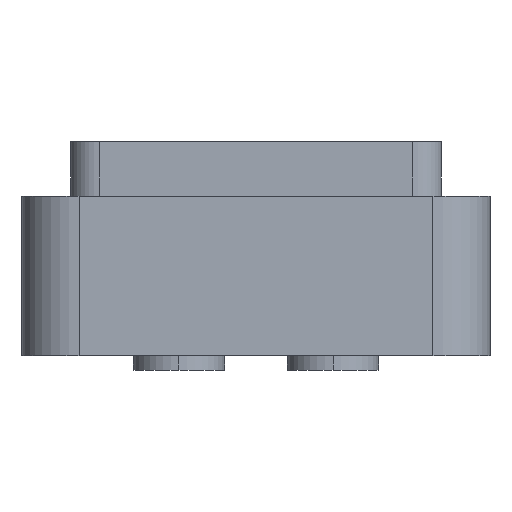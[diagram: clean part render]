
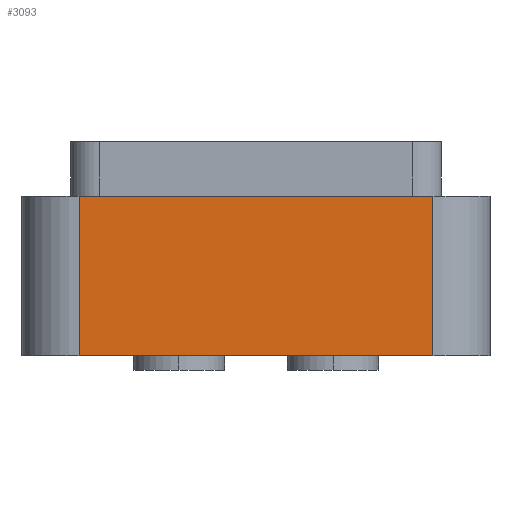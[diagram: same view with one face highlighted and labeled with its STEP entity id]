
A CAD part, left-side view. The second image highlights one B-rep face of the part: STEP entity #3093.
In plain terms, the highlighted planar face has unit normal (-1, 0, 0).
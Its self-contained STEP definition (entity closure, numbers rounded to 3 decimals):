
#228=DIRECTION('',(0.,-1.,0.));
#229=VECTOR('',#228,6.2);
#230=CARTESIAN_POINT('',(-12.2,3.1,0.));
#231=LINE('',#230,#229);
#340=DIRECTION('',(0.,-1.,0.));
#341=VECTOR('',#340,6.2);
#342=CARTESIAN_POINT('',(-12.2,3.1,-2.8));
#343=LINE('',#342,#341);
#1137=DIRECTION('',(0.,0.,-1.));
#1138=VECTOR('',#1137,2.8);
#1139=CARTESIAN_POINT('',(-12.2,3.1,0.));
#1140=LINE('',#1139,#1138);
#1141=DIRECTION('',(0.,0.,-1.));
#1142=VECTOR('',#1141,2.8);
#1143=CARTESIAN_POINT('',(-12.2,-3.1,0.));
#1144=LINE('',#1143,#1142);
#1457=CARTESIAN_POINT('',(-12.2,3.1,-2.8));
#1459=VERTEX_POINT('',#1457);
#1463=CARTESIAN_POINT('',(-12.2,3.1,0.));
#1464=VERTEX_POINT('',#1463);
#1466=CARTESIAN_POINT('',(-12.2,-3.1,-2.8));
#1468=VERTEX_POINT('',#1466);
#1469=CARTESIAN_POINT('',(-12.2,-3.1,0.));
#1470=VERTEX_POINT('',#1469);
#3081=CARTESIAN_POINT('',(-12.2,4.1,-2.8));
#3082=DIRECTION('',(1.,0.,0.));
#3083=DIRECTION('',(0.,-1.,0.));
#3084=AXIS2_PLACEMENT_3D('',#3081,#3082,#3083);
#3085=PLANE('',#3084);
#3086=ORIENTED_EDGE('',*,*,#3076,.F.);
#3087=ORIENTED_EDGE('',*,*,#1633,.T.);
#3089=ORIENTED_EDGE('',*,*,#3088,.T.);
#3090=ORIENTED_EDGE('',*,*,#1768,.F.);
#3091=EDGE_LOOP('',(#3086,#3087,#3089,#3090));
#3092=FACE_OUTER_BOUND('',#3091,.F.);
#1633=EDGE_CURVE('',#1464,#1470,#231,.T.);
#1768=EDGE_CURVE('',#1459,#1468,#343,.T.);
#3076=EDGE_CURVE('',#1464,#1459,#1140,.T.);
#3088=EDGE_CURVE('',#1470,#1468,#1144,.T.);
#3093=ADVANCED_FACE('',(#3092),#3085,.F.);
